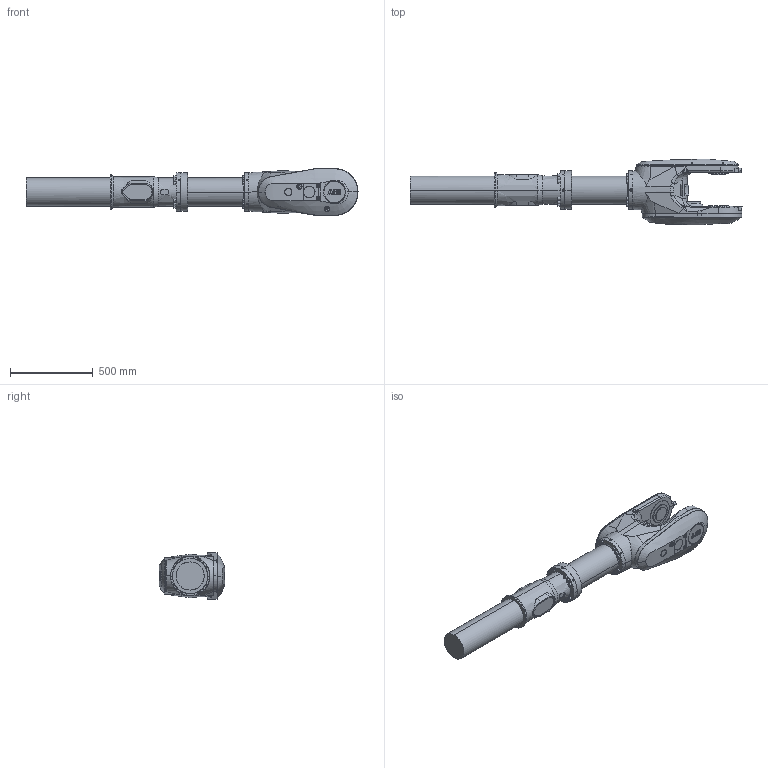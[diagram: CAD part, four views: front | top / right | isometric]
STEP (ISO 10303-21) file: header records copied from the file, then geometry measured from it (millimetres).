
FILE_DESCRIPTION (( 'STEP AP214' ), '1' );
FILE_NAME ('IRB6700-SW6_145-320_IRC5_rev03_LINK04_CAD.STEP', '2022-02-11T14:12:56', ( '' ), ( '' ), 'SwSTEP 2.0', 'SolidWorks 2020', '' );
FILE_SCHEMA (( 'AUTOMOTIVE_DESIGN' ));
Length unit declared in the file: millimetre
Products named in the file (1): IRB6700-SW6_145-320_IRC5_rev03_LINK04_CAD
Bounding box: 2009.5 x 395 x 284 mm (x, y, z)
Volume: 70741314.6 mm3; surface area: 1712926 mm2
Topology: 1 solids, 1 shells, 738 faces, 1868 edges, 1203 vertices
Faces by surface type: bspline 738
Entity records: 51012 total; most frequent: CARTESIAN_POINT 39604, ORIENTED_EDGE 3660, EDGE_CURVE 1830, B_SPLINE_CURVE_WITH_KNOTS 1516, VERTEX_POINT 1203, EDGE_LOOP 847, ADVANCED_FACE 738, FACE_OUTER_BOUND 738
